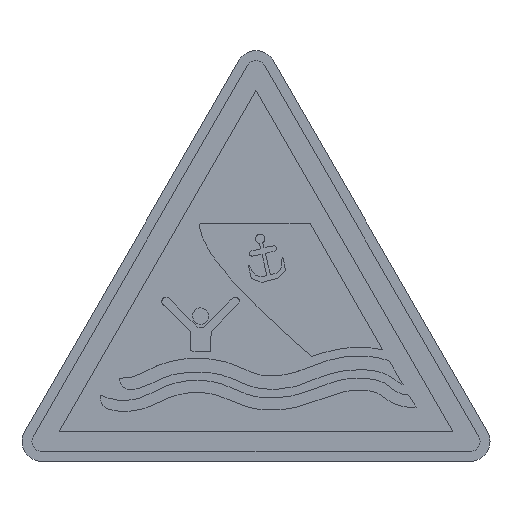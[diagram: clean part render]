
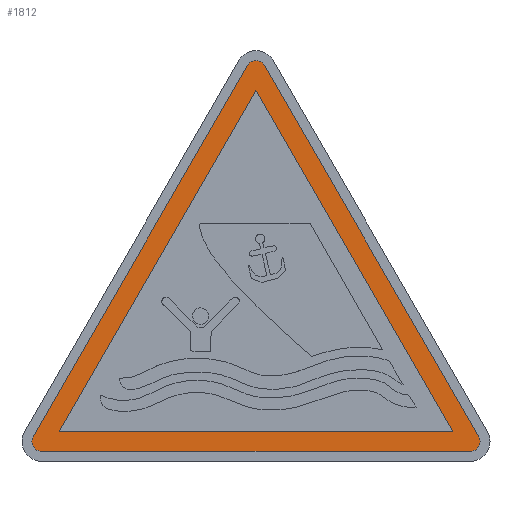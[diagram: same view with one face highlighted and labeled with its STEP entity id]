
A CAD part, top view. The second image highlights one B-rep face of the part: STEP entity #1812.
In plain terms, the highlighted planar face has unit normal (0, 0, 1).
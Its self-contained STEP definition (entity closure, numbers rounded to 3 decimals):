
#120 = CARTESIAN_POINT ( 'NONE',  ( 0.866, 39.801, 0.22 ) ) ;
#448 = DIRECTION ( 'NONE',  ( -0.5, -0.866, 0. ) ) ;
#592 = VERTEX_POINT ( 'NONE', #120 ) ;
#944 = CARTESIAN_POINT ( 'NONE',  ( -19.804, 3., 0.22 ) ) ;
#996 = AXIS2_PLACEMENT_3D ( 'NONE', #3136, #3960, #6546 ) ;
#1139 = CIRCLE ( 'NONE', #11391, 1. ) ;
#1619 = LINE ( 'NONE', #3413, #7130 ) ;
#1766 = ORIENTED_EDGE ( 'NONE', *, *, #5883, .F. ) ;
#1799 = EDGE_CURVE ( 'NONE', #3684, #5715, #1802, .T. ) ;
#1802 = LINE ( 'NONE', #6252, #11331 ) ;
#1809 = LINE ( 'NONE', #4380, #5862 ) ;
#1812 = ADVANCED_FACE ( 'NONE', ( #2844, #6426 ), #9989, .T. ) ;
#2185 = DIRECTION ( 'NONE',  ( 1., 0., 0. ) ) ;
#2265 = CARTESIAN_POINT ( 'NONE',  ( -0.866, 39.801, 0.22 ) ) ;
#2283 = EDGE_CURVE ( 'NONE', #5715, #2675, #11166, .T. ) ;
#2543 = VERTEX_POINT ( 'NONE', #10511 ) ;
#2554 = VERTEX_POINT ( 'NONE', #10452 ) ;
#2642 = DIRECTION ( 'NONE',  ( 0., 0., 1. ) ) ;
#2675 = VERTEX_POINT ( 'NONE', #11133 ) ;
#2844 = FACE_OUTER_BOUND ( 'NONE', #6383, .T. ) ;
#2903 = CARTESIAN_POINT ( 'NONE',  ( 0., 39.301, 0.22 ) ) ;
#3045 = ORIENTED_EDGE ( 'NONE', *, *, #10676, .T. ) ;
#3120 = VERTEX_POINT ( 'NONE', #11283 ) ;
#3136 = CARTESIAN_POINT ( 'NONE',  ( -21.536, 2., 0.22 ) ) ;
#3187 = CARTESIAN_POINT ( 'NONE',  ( -19.804, 3., 0.22 ) ) ;
#3228 = EDGE_CURVE ( 'NONE', #592, #2554, #7813, .T. ) ;
#3257 = LINE ( 'NONE', #944, #6434 ) ;
#3266 = ORIENTED_EDGE ( 'NONE', *, *, #10873, .F. ) ;
#3380 = ORIENTED_EDGE ( 'NONE', *, *, #5914, .F. ) ;
#3413 = CARTESIAN_POINT ( 'NONE',  ( 22.402, 2.5, 0.22 ) ) ;
#3684 = VERTEX_POINT ( 'NONE', #9572 ) ;
#3797 = CARTESIAN_POINT ( 'NONE',  ( -21.536, 2., 0.22 ) ) ;
#3831 = DIRECTION ( 'NONE',  ( 0., 0., 1. ) ) ;
#3960 = DIRECTION ( 'NONE',  ( 0., 0., 1. ) ) ;
#4061 = EDGE_LOOP ( 'NONE', ( #1766, #3266, #3380 ) ) ;
#4117 = ORIENTED_EDGE ( 'NONE', *, *, #2283, .T. ) ;
#4380 = CARTESIAN_POINT ( 'NONE',  ( 19.804, 3., 0.22 ) ) ;
#4477 = AXIS2_PLACEMENT_3D ( 'NONE', #10655, #2642, #9781 ) ;
#4509 = VECTOR ( 'NONE', #448, 1000. ) ;
#4630 = DIRECTION ( 'NONE',  ( 0., 0., 1. ) ) ;
#5047 = EDGE_CURVE ( 'NONE', #2543, #3684, #5662, .T. ) ;
#5342 = DIRECTION ( 'NONE',  ( 1., 0., 0. ) ) ;
#5662 = CIRCLE ( 'NONE', #996, 1. ) ;
#5715 = VERTEX_POINT ( 'NONE', #9250 ) ;
#5845 = ORIENTED_EDGE ( 'NONE', *, *, #10985, .T. ) ;
#5862 = VECTOR ( 'NONE', #6965, 1000. ) ;
#5866 = ORIENTED_EDGE ( 'NONE', *, *, #1799, .T. ) ;
#5883 = EDGE_CURVE ( 'NONE', #8017, #7247, #3257, .T. ) ;
#5914 = EDGE_CURVE ( 'NONE', #7247, #10302, #1809, .T. ) ;
#5949 = DIRECTION ( 'NONE',  ( -0.5, -0.866, 0. ) ) ;
#6134 = AXIS2_PLACEMENT_3D ( 'NONE', #11328, #9660, #6145 ) ;
#6145 = DIRECTION ( 'NONE',  ( 1., 0., 0. ) ) ;
#6252 = CARTESIAN_POINT ( 'NONE',  ( -21.536, 1., 0.22 ) ) ;
#6383 = EDGE_LOOP ( 'NONE', ( #8037, #3045, #8915, #8586, #5866, #4117, #5845 ) ) ;
#6426 = FACE_BOUND ( 'NONE', #4061, .T. ) ;
#6434 = VECTOR ( 'NONE', #5342, 1000. ) ;
#6546 = DIRECTION ( 'NONE',  ( 1., 0., 0. ) ) ;
#6965 = DIRECTION ( 'NONE',  ( -0.5, 0.866, 0. ) ) ;
#7130 = VECTOR ( 'NONE', #8693, 1000. ) ;
#7247 = VERTEX_POINT ( 'NONE', #7511 ) ;
#7511 = CARTESIAN_POINT ( 'NONE',  ( 19.804, 3., 0.22 ) ) ;
#7813 = CIRCLE ( 'NONE', #4477, 1. ) ;
#8017 = VERTEX_POINT ( 'NONE', #3187 ) ;
#8037 = ORIENTED_EDGE ( 'NONE', *, *, #3228, .T. ) ;
#8419 = LINE ( 'NONE', #2265, #10267 ) ;
#8586 = ORIENTED_EDGE ( 'NONE', *, *, #5047, .T. ) ;
#8693 = DIRECTION ( 'NONE',  ( -0.5, 0.866, 0. ) ) ;
#8898 = CARTESIAN_POINT ( 'NONE',  ( 0., 37.301, 0.22 ) ) ;
#8915 = ORIENTED_EDGE ( 'NONE', *, *, #9435, .T. ) ;
#9191 = DIRECTION ( 'NONE',  ( 1., 0., 0. ) ) ;
#9250 = CARTESIAN_POINT ( 'NONE',  ( 21.536, 1., 0.22 ) ) ;
#9300 = AXIS2_PLACEMENT_3D ( 'NONE', #2903, #3831, #2185 ) ;
#9435 = EDGE_CURVE ( 'NONE', #3120, #2543, #1139, .T. ) ;
#9572 = CARTESIAN_POINT ( 'NONE',  ( -21.536, 1., 0.22 ) ) ;
#9660 = DIRECTION ( 'NONE',  ( 0., 0., 1. ) ) ;
#9781 = DIRECTION ( 'NONE',  ( 1., 0., 0. ) ) ;
#9989 = PLANE ( 'NONE',  #9300 ) ;
#10105 = LINE ( 'NONE', #11253, #4509 ) ;
#10267 = VECTOR ( 'NONE', #5949, 1000. ) ;
#10302 = VERTEX_POINT ( 'NONE', #8898 ) ;
#10452 = CARTESIAN_POINT ( 'NONE',  ( -0.866, 39.801, 0.22 ) ) ;
#10511 = CARTESIAN_POINT ( 'NONE',  ( -22.536, 2., 0.22 ) ) ;
#10655 = CARTESIAN_POINT ( 'NONE',  ( 0., 39.301, 0.22 ) ) ;
#10676 = EDGE_CURVE ( 'NONE', #2554, #3120, #8419, .T. ) ;
#10873 = EDGE_CURVE ( 'NONE', #10302, #8017, #10105, .T. ) ;
#10985 = EDGE_CURVE ( 'NONE', #2675, #592, #1619, .T. ) ;
#11133 = CARTESIAN_POINT ( 'NONE',  ( 22.402, 2.5, 0.22 ) ) ;
#11166 = CIRCLE ( 'NONE', #6134, 1. ) ;
#11253 = CARTESIAN_POINT ( 'NONE',  ( 0., 37.301, 0.22 ) ) ;
#11283 = CARTESIAN_POINT ( 'NONE',  ( -22.402, 2.5, 0.22 ) ) ;
#11328 = CARTESIAN_POINT ( 'NONE',  ( 21.536, 2., 0.22 ) ) ;
#11331 = VECTOR ( 'NONE', #11548, 1000. ) ;
#11391 = AXIS2_PLACEMENT_3D ( 'NONE', #3797, #4630, #9191 ) ;
#11548 = DIRECTION ( 'NONE',  ( 1., 0., 0. ) ) ;
